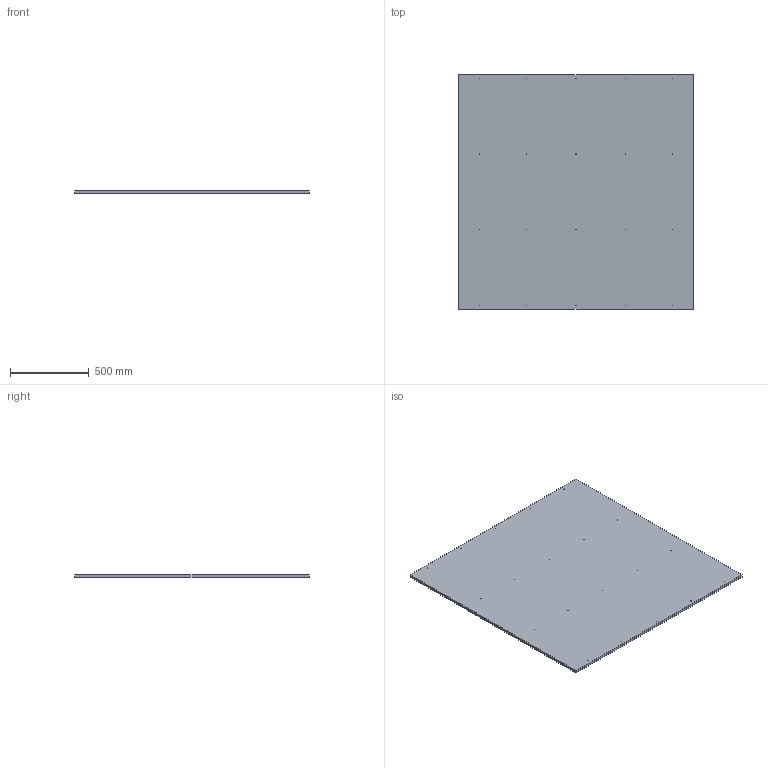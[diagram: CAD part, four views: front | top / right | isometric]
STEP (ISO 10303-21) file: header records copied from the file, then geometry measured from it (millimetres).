
FILE_DESCRIPTION(('Open CASCADE Model'),'2;1');
FILE_NAME('Open CASCADE Shape Model','2026-09-28T10:14:08',('Author'),( 'Open CASCADE'),'Open CASCADE STEP processor 7.9','Open CASCADE 7.9' ,'Unknown');
FILE_SCHEMA(('AUTOMOTIVE_DESIGN { 1 0 10303 214 1 1 1 1 }'));
Length unit declared in the file: millimetre
Products named in the file (1): Open CASCADE STEP translator 7.9 20
Bounding box: 1489 x 1489 x 18 mm (x, y, z)
Volume: 39906410.9 mm3; surface area: 4544081.1 mm2
Topology: 1 solids, 1 shells, 26 faces, 72 edges, 48 vertices
Faces by surface type: cylinder 20, plane 6
Full cylindrical faces by diameter (mm): 2.5 x20
Entity records: 1882 total; most frequent: DIRECTION 310, CARTESIAN_POINT 291, ORIENTED_EDGE 144, PCURVE 144, DEFINITIONAL_REPRESENTATION 144, LINE 136, VECTOR 136, CIRCLE 80
